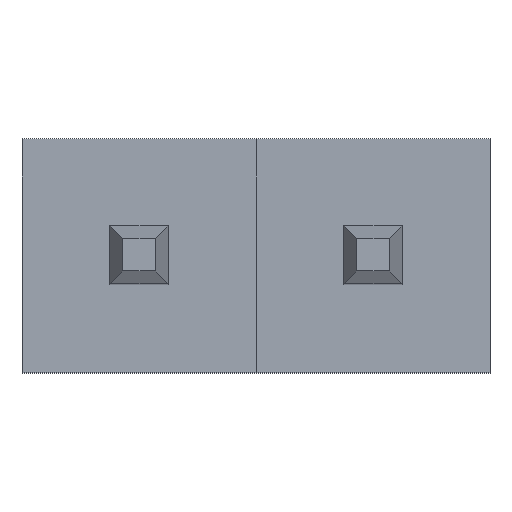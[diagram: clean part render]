
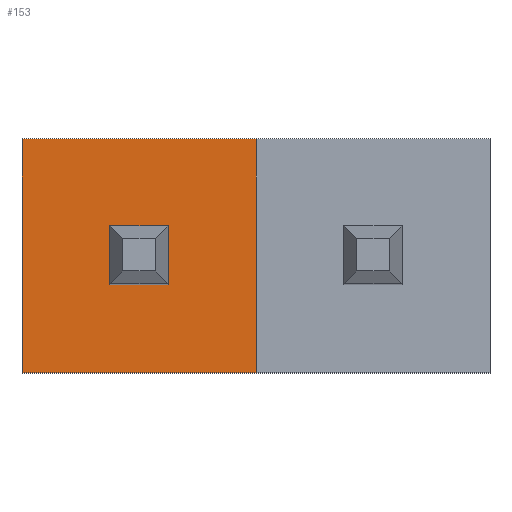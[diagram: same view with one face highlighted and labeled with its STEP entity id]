
A CAD part, top view. The second image highlights one B-rep face of the part: STEP entity #153.
In plain terms, the highlighted planar face has unit normal (0, 0, 1).
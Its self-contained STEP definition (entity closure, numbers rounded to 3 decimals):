
#20 = CARTESIAN_POINT('',(-2.54,-1.27,2.));
#21 = VERTEX_POINT('',#20);
#22 = CARTESIAN_POINT('',(-2.54,1.27,2.));
#23 = VERTEX_POINT('',#22);
#31 = DIRECTION('',(0.,1.,0.));
#32 = VECTOR('',#31,1.);
#33 = LINE('',#20,#32);
#34 = EDGE_CURVE('',#21,#23,#33,.T.);
#58 = CARTESIAN_POINT('',(0.,1.27,2.));
#59 = VERTEX_POINT('',#58);
#60 = CARTESIAN_POINT('',(0.,-1.27,2.));
#61 = VERTEX_POINT('',#60);
#72 = DIRECTION('',(0.,1.,0.));
#73 = VECTOR('',#72,1.);
#74 = LINE('',#60,#73);
#75 = EDGE_CURVE('',#61,#59,#74,.T.);
#96 = DIRECTION('',(1.,0.,0.));
#97 = VECTOR('',#96,1.);
#98 = LINE('',#20,#97);
#99 = EDGE_CURVE('',#21,#61,#98,.T.);
#111 = DIRECTION('',(1.,0.,0.));
#112 = VECTOR('',#111,1.);
#113 = LINE('',#22,#112);
#114 = EDGE_CURVE('',#23,#59,#113,.T.);
#142 = ORIENTED_EDGE('',*,*,#99,.T.);
#143 = ORIENTED_EDGE('',*,*,#75,.T.);
#144 = ORIENTED_EDGE('',*,*,#114,.F.);
#145 = ORIENTED_EDGE('',*,*,#34,.F.);
#146 = CARTESIAN_POINT('',(-2.54,-1.27,2.));
#147 = DIRECTION('',(0.,0.,1.));
#148 = DIRECTION('',(1.,0.,0.));
#149 = AXIS2_PLACEMENT_3D('',#146,#147,#148);
#150 = PLANE('',#149);
#151 = EDGE_LOOP('',(#142,#143,#144,#145));
#152 = FACE_OUTER_BOUND('',#151,.T.);
#153 = ADVANCED_FACE('',(#152),#150,.T.);
